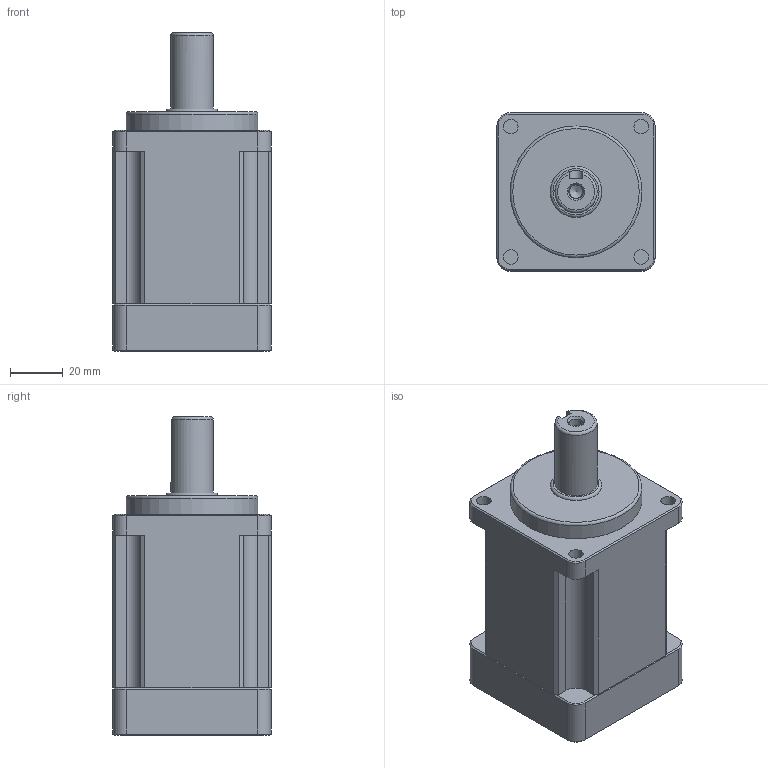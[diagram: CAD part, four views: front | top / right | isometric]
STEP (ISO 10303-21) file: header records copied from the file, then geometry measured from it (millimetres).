
FILE_DESCRIPTION((''),'2;1');
FILE_NAME('D:\유성\유성\도면\3D\2. 홈페이지용 3D 도면 (ipt)\외부도\SPI060 1단\SPI(H)060 SERIES (1 STAGE-KA TYPE)_Shrinkwrap_1.stp','2014-05-08T13:14:38',('nagyu'),(''),'Autodesk Inventor 2013','Autodesk Inventor 2013','');
FILE_SCHEMA(('AUTOMOTIVE_DESIGN { 1 0 10303 214 1 1 1 1 }'));
Length unit declared in the file: millimetre
Products named in the file (1): SPI(H)060 SERIES (1 STAGE-KA TYPE)_Shrinkwrap_1
Bounding box: 60 x 60 x 121 mm (x, y, z)
Volume: 267850.9 mm3; surface area: 37514.4 mm2
Topology: 1 solids, 1 shells, 130 faces, 324 edges, 202 vertices
Faces by surface type: plane 63, cylinder 41, cone 23, torus 3
Full cylindrical faces by diameter (mm): 4.134 x4, 5 x1, 5.5 x5, 6.8 x1, 8 x1, 14 x1, 16 x1, 17 x1, 47 x1, 50 x2
Entity records: 3685 total; most frequent: CARTESIAN_POINT 669, DIRECTION 653, ORIENTED_EDGE 560, EDGE_CURVE 280, AXIS2_PLACEMENT_3D 247, VERTEX_POINT 189, EDGE_LOOP 179, VECTOR 159
